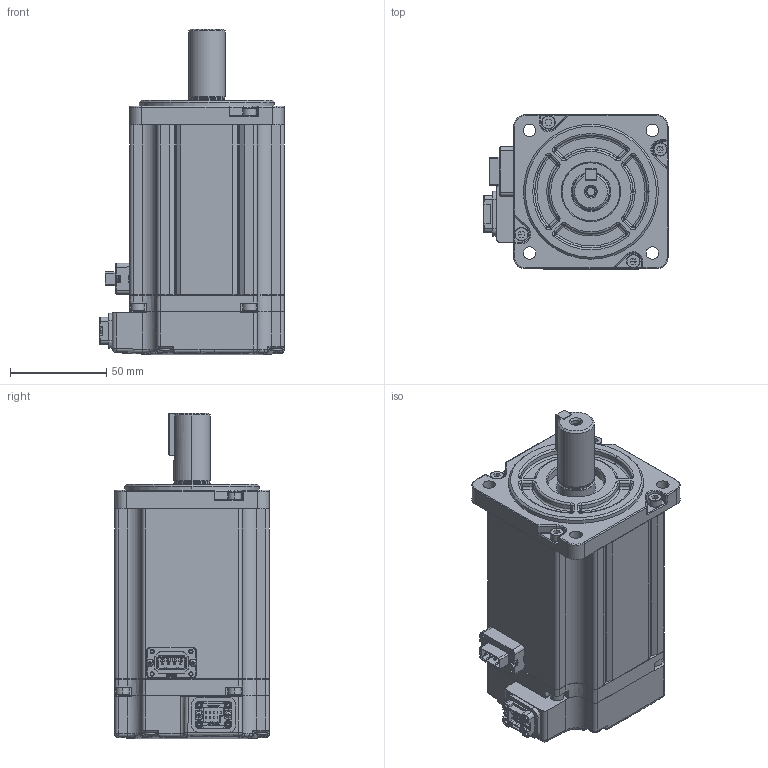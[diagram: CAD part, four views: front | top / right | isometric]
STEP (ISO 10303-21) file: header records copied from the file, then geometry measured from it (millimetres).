
FILE_DESCRIPTION (( 'STEP AP203' ), '1' );
FILE_NAME ('SM3L-084A3NDV.STEP', '2021-12-17T03:04:07', ( 'ad' ), ( '' ), 'SwSTEP 2.0', 'SolidWorks 2015', '' );
FILE_SCHEMA (( 'CONFIG_CONTROL_DESIGN' ));
Products named in the file (2): SM3L-084A3NDV
Bounding box: 95.62 x 80.15 x 169 mm (x, y, z)
Surface area: 66132.8 mm2 (no closed solid volume)
Topology: 0 solids, 57 shells, 1001 faces, 3396 edges, 2381 vertices
Faces by surface type: plane 442, cylinder 259, bspline 113, torus 77, cone 72, sphere 38
Entity records: 40764 total; most frequent: CARTESIAN_POINT 12709, DIRECTION 5639, ORIENTED_EDGE 5310, EDGE_CURVE 3366, VERTEX_POINT 2377, AXIS2_PLACEMENT_3D 1895, VECTOR 1849, LINE 1849
